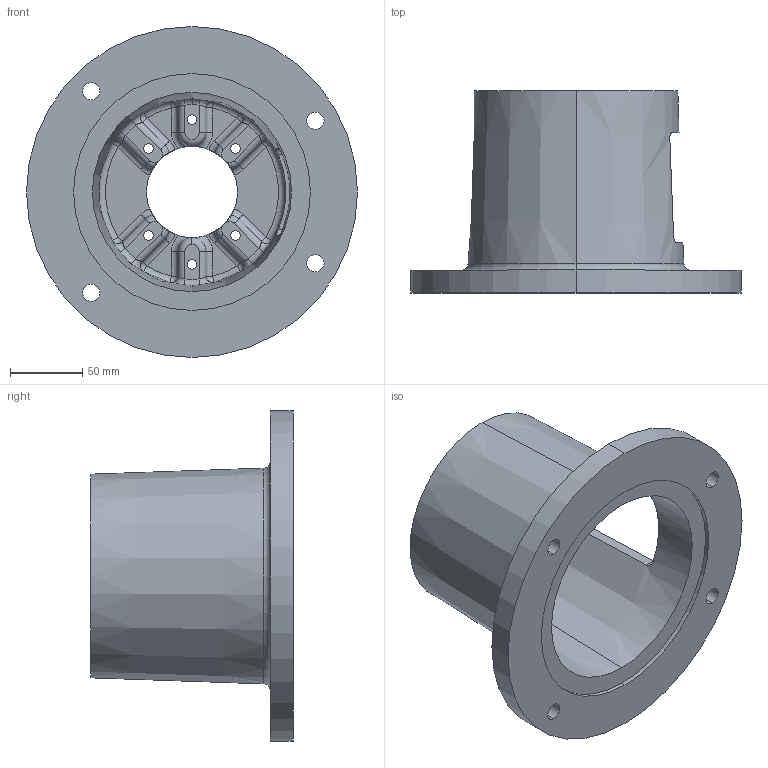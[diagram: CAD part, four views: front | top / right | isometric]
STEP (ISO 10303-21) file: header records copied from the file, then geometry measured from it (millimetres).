
FILE_DESCRIPTION (( 'STEP AP203' ), '1' );
FILE_NAME ('E6445563M.STEP', '2014-11-03T17:55:14', ( '' ), ( '' ), 'SwSTEP 2.0', 'SolidWorks 2014', '' );
FILE_SCHEMA (( 'CONFIG_CONTROL_DESIGN' ));
Length unit declared in the file: inch
Products named in the file (1): E6445563M
Bounding box: 228.6 x 139.7 x 228.6 mm (x, y, z)
Volume: 810715.4 mm3; surface area: 193962.5 mm2
Topology: 1 solids, 1 shells, 176 faces, 438 edges, 254 vertices
Faces by surface type: cylinder 65, torus 39, plane 32, bspline 24, sphere 12, cone 4
Entity records: 7126 total; most frequent: CARTESIAN_POINT 2969, DIRECTION 887, ORIENTED_EDGE 852, EDGE_CURVE 426, AXIS2_PLACEMENT_3D 390, VERTEX_POINT 254, CIRCLE 237, EDGE_LOOP 202
